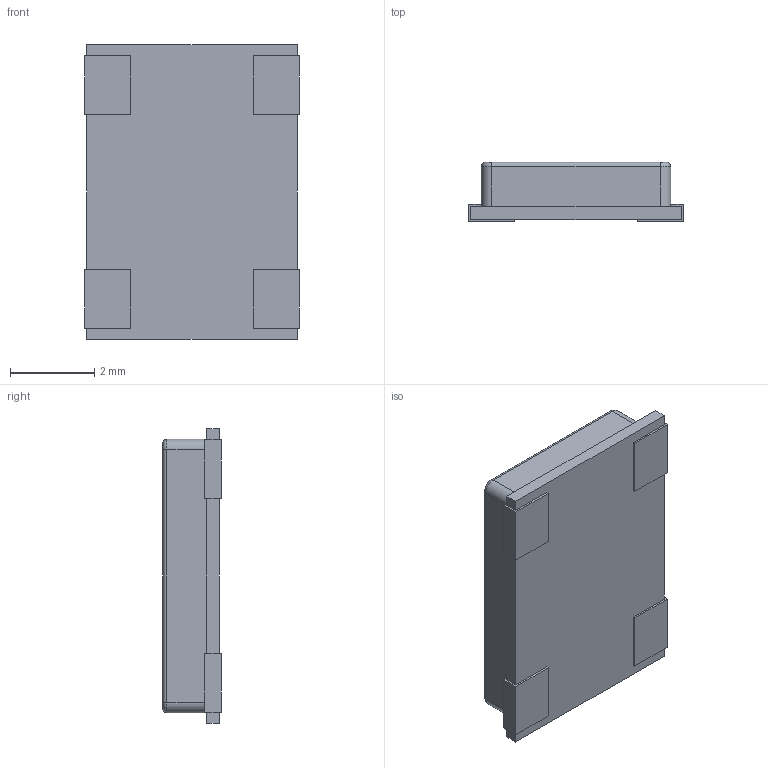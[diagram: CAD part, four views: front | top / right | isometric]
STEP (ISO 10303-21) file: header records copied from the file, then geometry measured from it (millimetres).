
FILE_DESCRIPTION (( 'STEP AP214' ), '1' );
FILE_NAME ( 'XTALSC4P508_700X500X140L110.STEP', '2021-10-06T06:49:14', ( '' ), ( '' ), '', '©2017 PCB Libraries, Inc.', '' );
FILE_SCHEMA (( 'AUTOMOTIVE_DESIGN' ));
Length unit declared in the file: millimetre
Products named in the file (1): XTALSC4P508_700X500X140L110
Bounding box: 5.1 x 1.4 x 7 mm (x, y, z)
Volume: 41.6 mm3; surface area: 119.2 mm2
Topology: 5 solids, 5 shells, 63 faces, 148 edges, 96 vertices
Faces by surface type: plane 51, cylinder 8, torus 4
Entity records: 2038 total; most frequent: CARTESIAN_POINT 308, DIRECTION 296, ORIENTED_EDGE 296, EDGE_CURVE 148, VECTOR 128, LINE 128, VERTEX_POINT 96, AXIS2_PLACEMENT_3D 84
